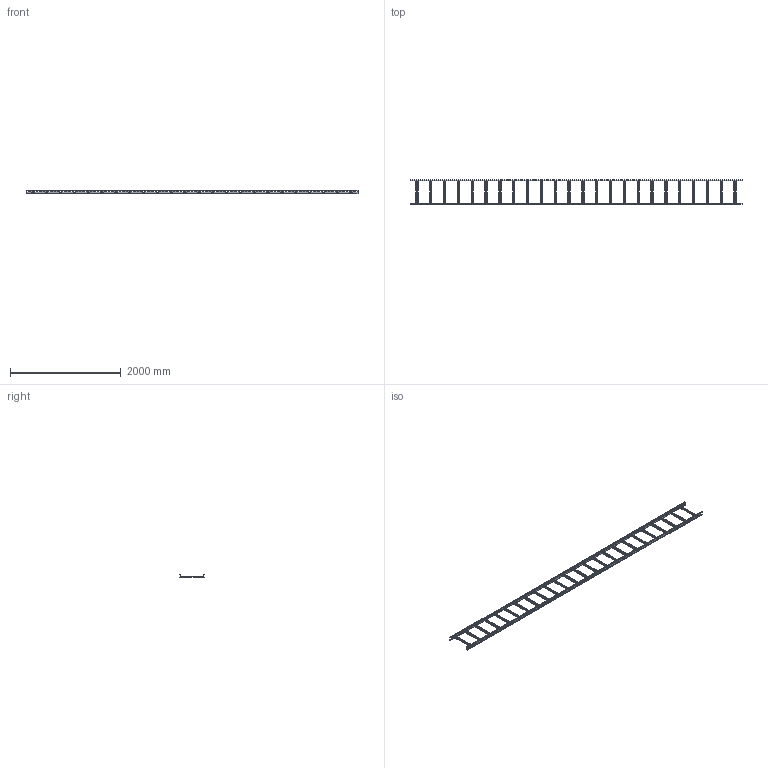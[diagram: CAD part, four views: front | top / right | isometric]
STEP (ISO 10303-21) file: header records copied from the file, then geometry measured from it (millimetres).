
FILE_DESCRIPTION(/* description */ ('','CAx-IF Rec.Pracs.---Representation and Presentation of Product Manufacturing Information (PMI)---4.0---2014-10-13'),/* implementation_level */ '2;1');
FILE_NAME(/* name */ 'Eurostrut_ECL60-400_CableLadder-3DView-{3D}.step',/* time_stamp */ '2026-09-03T08:24:01+02:00',/* author */ (''),/* organization */ (''),/* preprocessor_version */ 'ST-DEVELOPER v20.1',/* originating_system */ 'Autodesk Revit 2027 27.2.0.39',/* authorisation */ '');
FILE_SCHEMA (('AP242_MANAGED_MODEL_BASED_3D_ENGINEERING_MIM_LF { 1 0 10303 442 2 1 4 }'));
Length unit declared in the file: millimetre
Products named in the file (4): TopLevelAssembly; 60mm; 60mm_1; Cable Ladder Rung_Slotted
Assembly tree (26 placements, depth 2):
  TopLevelAssembly
    60mm
    60mm_1
    Cable Ladder Rung_Slotted  x24
Bounding box: 6000 x 446 x 60 mm (x, y, z)
Volume: 3381672 mm3; surface area: 4614873.2 mm2
Topology: 26 solids, 26 shells, 3372 faces, 9960 edges, 6640 vertices
Faces by surface type: plane 2292, bspline 960, cylinder 120
Entity records: 39320 total; most frequent: CARTESIAN_POINT 7940, ORIENTED_EDGE 6672, DIRECTION 5688, EDGE_CURVE 3336, LINE 3200, VECTOR 3200, VERTEX_POINT 2224, EDGE_LOOP 1638
